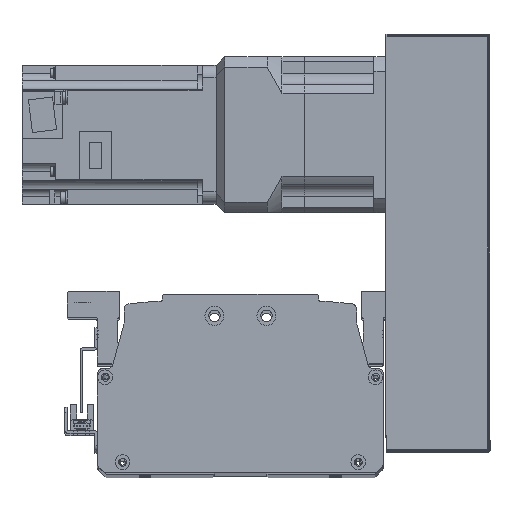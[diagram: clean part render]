
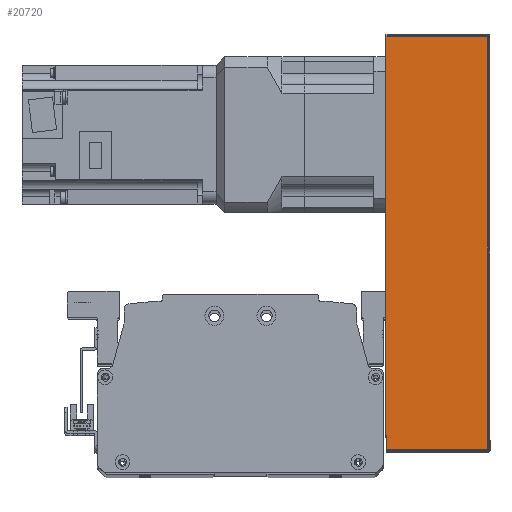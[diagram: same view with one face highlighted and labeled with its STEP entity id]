
A CAD part, top view. The second image highlights one B-rep face of the part: STEP entity #20720.
In plain terms, the highlighted planar face has unit normal (0, 0, 1) as drawn and (0, -1, 0) by its records, which use the part's own axes.
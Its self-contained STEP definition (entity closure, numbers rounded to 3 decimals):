
#560=PLANE('',#22580);
#1678=LINE('',#32905,#3338);
#1704=LINE('',#33001,#3364);
#1705=LINE('',#33009,#3365);
#1712=LINE('',#33034,#3372);
#3338=VECTOR('',#26759,10.);
#3364=VECTOR('',#26877,10.);
#3365=VECTOR('',#26888,10.);
#3372=VECTOR('',#26923,10.);
#5365=FACE_OUTER_BOUND('',#6801,.T.);
#6801=EDGE_LOOP('',(#16282,#16283,#16284,#16285));
#9659=VERTEX_POINT('',#32902);
#9660=VERTEX_POINT('',#32904);
#9684=VERTEX_POINT('',#32997);
#9685=VERTEX_POINT('',#33003);
#12014=EDGE_CURVE('',#9660,#9659,#1678,.T.);
#12064=EDGE_CURVE('',#9659,#9684,#1704,.T.);
#12068=EDGE_CURVE('',#9685,#9660,#1705,.T.);
#12081=EDGE_CURVE('',#9684,#9685,#1712,.T.);
#16282=ORIENTED_EDGE('',*,*,#12064,.T.);
#16283=ORIENTED_EDGE('',*,*,#12081,.T.);
#16284=ORIENTED_EDGE('',*,*,#12068,.T.);
#16285=ORIENTED_EDGE('',*,*,#12014,.T.);
#20720=ADVANCED_FACE('',(#5365),#560,.F.);
#22580=AXIS2_PLACEMENT_3D('',#33040,#26933,#26934);
#26759=DIRECTION('',(1.,0.,0.));
#26877=DIRECTION('',(0.,0.,1.));
#26888=DIRECTION('',(0.,0.,-1.));
#26923=DIRECTION('',(-1.,0.,0.));
#26933=DIRECTION('center_axis',(0.,1.,0.));
#26934=DIRECTION('ref_axis',(1.,0.,0.));
#32902=CARTESIAN_POINT('',(119.5,-51.,-30.));
#32904=CARTESIAN_POINT('',(-119.5,-51.,-30.));
#32905=CARTESIAN_POINT('',(120.5,-51.,-30.));
#32997=CARTESIAN_POINT('',(119.5,-51.,29.));
#33001=CARTESIAN_POINT('',(119.5,-51.,0.));
#33003=CARTESIAN_POINT('',(-119.5,-51.,29.));
#33009=CARTESIAN_POINT('',(-119.5,-51.,0.));
#33034=CARTESIAN_POINT('',(-60.25,-51.,29.));
#33040=CARTESIAN_POINT('Origin',(-120.5,-51.,0.));
